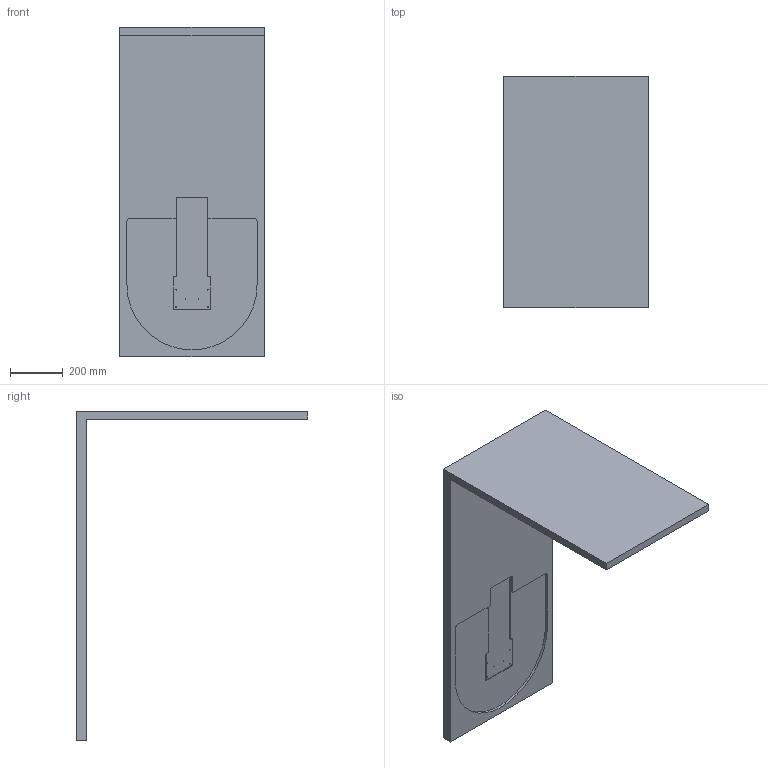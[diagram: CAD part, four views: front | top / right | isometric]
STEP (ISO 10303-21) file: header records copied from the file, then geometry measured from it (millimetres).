
FILE_DESCRIPTION (( 'STEP AP214' ), '1' );
FILE_NAME ('W036021-1_Tischplattenausfräsung.STEP', '2022-11-23T08:37:03', ( '' ), ( '' ), 'SwSTEP 2.0', 'SolidWorks 2021', '' );
FILE_SCHEMA (( 'AUTOMOTIVE_DESIGN' ));
Length unit declared in the file: millimetre
Products named in the file (1): W036021-1_Tischplattenausfräsung
Bounding box: 550 x 878 x 1250 mm (x, y, z)
Volume: 37460089.7 mm3; surface area: 2510493.8 mm2
Topology: 1 solids, 1 shells, 50 faces, 123 edges, 82 vertices
Faces by surface type: plane 28, cylinder 22
Entity records: 1525 total; most frequent: DIRECTION 269, CARTESIAN_POINT 256, ORIENTED_EDGE 246, EDGE_CURVE 123, AXIS2_PLACEMENT_3D 95, VERTEX_POINT 82, VECTOR 79, LINE 79
